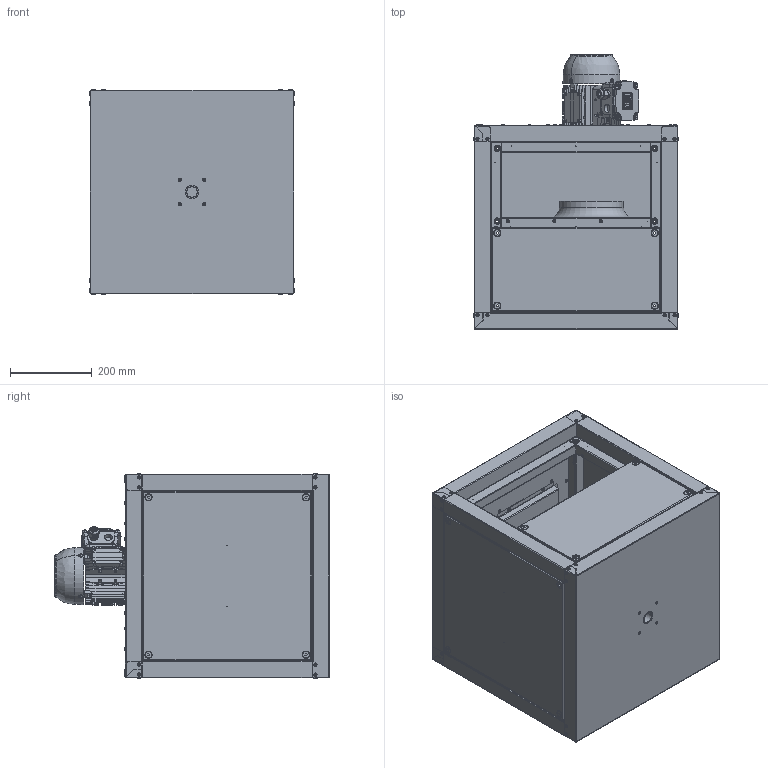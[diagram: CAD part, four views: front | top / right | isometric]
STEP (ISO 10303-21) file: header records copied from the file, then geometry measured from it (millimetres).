
FILE_DESCRIPTION (( 'STEP AP203' ), '1' );
FILE_NAME ('146665-00_MPC250D2F4TI30_step.step', '2018-10-09T09:45:44', ( '' ), ( '' ), 'SwSTEP 2.0', 'SolidWorks 2017', '' );
FILE_SCHEMA (( 'CONFIG_CONTROL_DESIGN' ));
Products named in the file (1): 146665-00_MPC250D2F4TI30_step
Bounding box: 502.6 x 673.1 x 502.6 mm (x, y, z)
Surface area: 3627209.2 mm2 (no closed solid volume)
Topology: 0 solids, 242 shells, 2080 faces, 8608 edges, 6545 vertices
Faces by surface type: plane 990, cylinder 629, torus 266, bspline 112, cone 83
Entity records: 104802 total; most frequent: CARTESIAN_POINT 35737, DIRECTION 14529, ORIENTED_EDGE 11676, EDGE_CURVE 8608, VERTEX_POINT 6545, AXIS2_PLACEMENT_3D 4862, LINE 4805, VECTOR 4805
